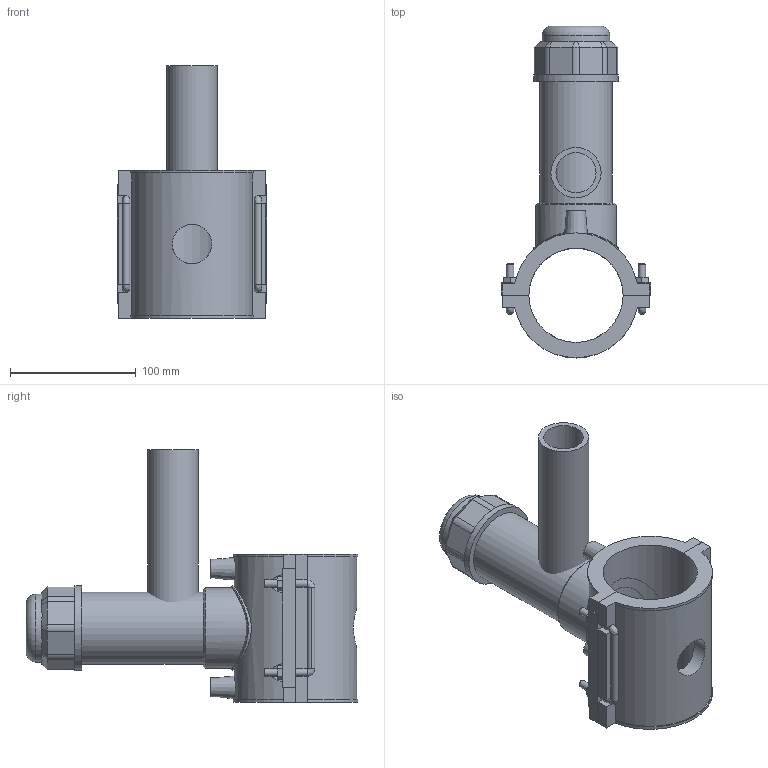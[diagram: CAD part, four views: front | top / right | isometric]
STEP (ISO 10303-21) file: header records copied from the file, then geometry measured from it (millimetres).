
FILE_DESCRIPTION(/* description */ (''),/* implementation_level */ '2;1');
FILE_NAME(/* name */ 'C:\Dropbox\KIMPROJECTS-Inventor 2019\99-16-3568-Processing\ElectroFusion Fittings\4963P4\stp\4963P4075040.stp',/* time_stamp */ '2022-03-17T11:26:20+02:00',/* author */ ('KIM'),/* organization */ (''),/* preprocessor_version */ 'ST-DEVELOPER v17.2',/* originating_system */ 'Autodesk Inventor 2019',/* authorisation */ '');
FILE_SCHEMA (('AUTOMOTIVE_DESIGN { 1 0 10303 214 3 1 1 }'));
Length unit declared in the file: millimetre
Products named in the file (1): 4963P4075040
Bounding box: 119 x 264.23 x 201 mm (x, y, z)
Volume: 755072.8 mm3; surface area: 190296.2 mm2
Topology: 3 solids, 3 shells, 188 faces, 493 edges, 316 vertices
Faces by surface type: plane 115, cylinder 48, cone 15, bspline 9, torus 1
Full cylindrical faces by diameter (mm): 4 x2, 6 x8, 10 x2, 31.36 x1, 32 x1, 40 x1, 47.25 x1, 54 x1, 57.375 x1, 64.125 x1, 67.5 x2
Entity records: 6655 total; most frequent: CARTESIAN_POINT 1953, ORIENTED_EDGE 970, DIRECTION 961, EDGE_CURVE 485, AXIS2_PLACEMENT_3D 329, VERTEX_POINT 316, LINE 303, VECTOR 303
